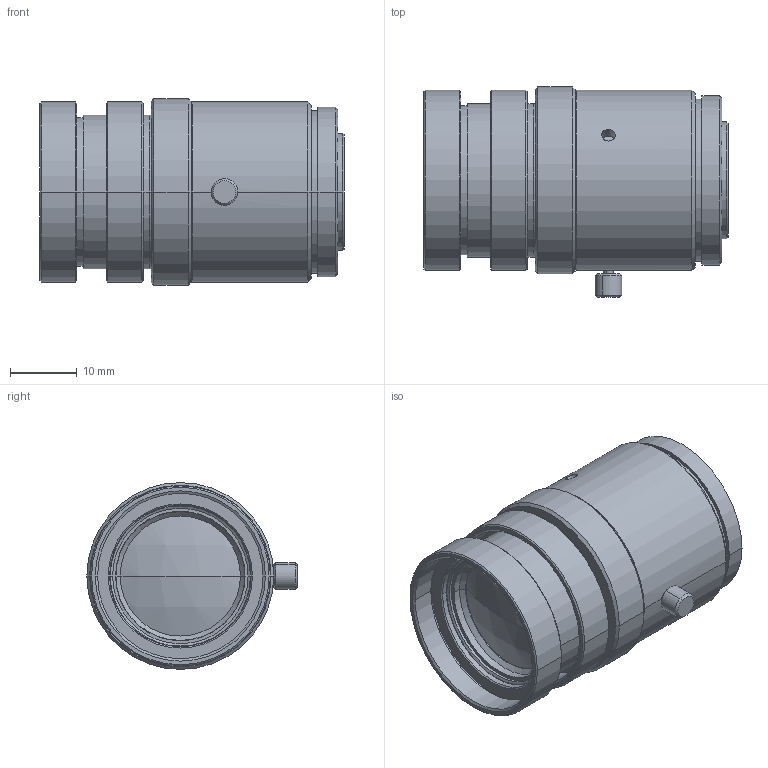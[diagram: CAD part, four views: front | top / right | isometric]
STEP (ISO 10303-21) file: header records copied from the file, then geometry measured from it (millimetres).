
FILE_DESCRIPTION (( 'STEP AP214' ), '1' );
FILE_NAME ('MP2540-MPW2-R.STEP', '2021-04-19T23:33:30', ( '' ), ( '' ), 'SwSTEP 2.0', 'SolidWorks 2021', '' );
FILE_SCHEMA (( 'AUTOMOTIVE_DESIGN' ));
Length unit declared in the file: millimetre
Products named in the file (4): MP2540-MPW2-R; MP2540-MPW2-R_Infinity; MP2540-MPW2-R_MechanicalLimit; ロックビス
Assembly tree (3 placements, depth 2):
  MP2540-MPW2-R
    MP2540-MPW2-R_Infinity
    MP2540-MPW2-R_MechanicalLimit
    ロックビス
Bounding box: 45.6 x 31.5 x 28 mm (x, y, z)
Volume: 31900.5 mm3; surface area: 13883.5 mm2
Topology: 3 solids, 3 shells, 238 faces, 472 edges, 282 vertices
Faces by surface type: cylinder 94, cone 90, plane 46, sphere 8
Entity records: 8888 total; most frequent: DIRECTION 1222, CARTESIAN_POINT 1190, ORIENTED_EDGE 944, AXIS2_PLACEMENT_3D 518, EDGE_CURVE 472, VERTEX_POINT 282, EDGE_LOOP 280, CIRCLE 274
